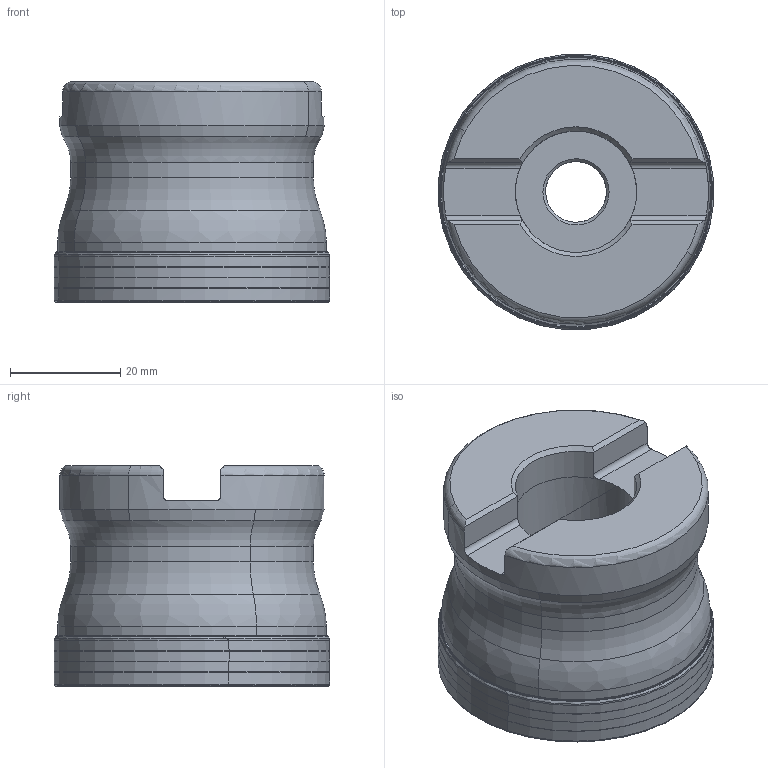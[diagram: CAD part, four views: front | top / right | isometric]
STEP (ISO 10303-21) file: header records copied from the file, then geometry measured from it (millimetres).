
FILE_DESCRIPTION(('CATIA V5 STEP','CAx-IF Rec.Pracs.--- Model Styling and Organization---1.2---2011-12-15'),'2;1');
FILE_NAME('N:\data\isr\design\special1\users\NATALY_B\Tal\NPA\3106656\H690 F90AX D050-6-22-10-L.stp','2016-02-29T14:32:11+00:00',('none'),('none'),'CATIA Version 5 Release 21 SP 5 (IN-10)','CATIA V5 STEP AP214','none');
FILE_SCHEMA(('AUTOMOTIVE_DESIGN { 1 0 10303 214 1 1 1 1 }'));
Length unit declared in the file: millimetre
Products named in the file (1): H690 F90AX D050-6-22-10
Bounding box: 49.85 x 49.85 x 40 mm (x, y, z)
Volume: 60208.6 mm3; surface area: 15239.2 mm2
Topology: 2 solids, 2 shells, 139 faces, 334 edges, 198 vertices
Faces by surface type: revolution 68, cylinder 24, torus 18, plane 15, cone 14
Entity records: 4371 total; most frequent: CARTESIAN_POINT 1497, ORIENTED_EDGE 668, DIRECTION 372, EDGE_CURVE 334, VERTEX_POINT 198, AXIS2_PLACEMENT_3D 192, B_SPLINE_CURVE_WITH_KNOTS 168, CIRCLE 156
